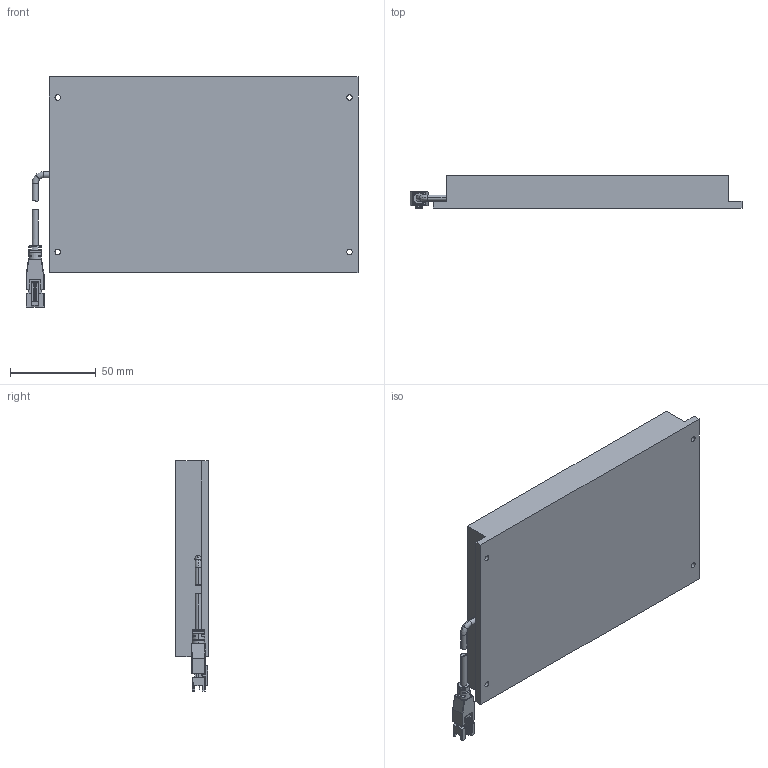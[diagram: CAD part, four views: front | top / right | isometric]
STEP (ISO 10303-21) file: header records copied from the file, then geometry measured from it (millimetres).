
FILE_DESCRIPTION((''),'2;1');
FILE_NAME('MV-LBSS-150-100_ASM','2019-09-19T',('Administrator'),(''),'PRO/ENGINEER BY PARAMETRIC TECHNOLOGY CORPORATION, 2010100','PRO/ENGINEER BY PARAMETRIC TECHNOLOGY CORPORATION, 2010100','');
FILE_SCHEMA(('CONFIG_CONTROL_DESIGN'));
Length unit declared in the file: millimetre
Products named in the file (5): WAIKE_5; LINE_TOU_74; BODY_12_5; ASSY_ASM_20_ASM; MV-LBSS-150-100_ASM
Assembly tree (4 placements, depth 3):
  MV-LBSS-150-100_ASM
    WAIKE_5
    ASSY_ASM_20_ASM
      LINE_TOU_74
      BODY_12_5
Bounding box: 193.49 x 19 x 134.12 mm (x, y, z)
Volume: 357330.6 mm3; surface area: 54588.6 mm2
Topology: 3 solids, 3 shells, 251 faces, 649 edges, 407 vertices
Faces by surface type: plane 143, cylinder 78, torus 12, bspline 8, sphere 8, cone 2
Entity records: 7897 total; most frequent: CARTESIAN_POINT 1623, DIRECTION 1301, ORIENTED_EDGE 1282, EDGE_CURVE 641, AXIS2_PLACEMENT_3D 444, VECTOR 413, LINE 413, VERTEX_POINT 407
